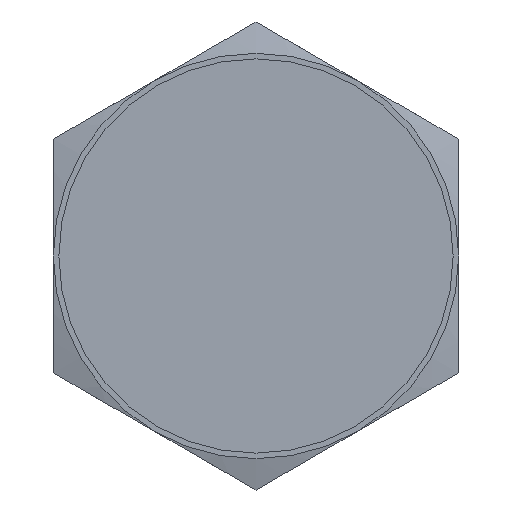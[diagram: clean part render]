
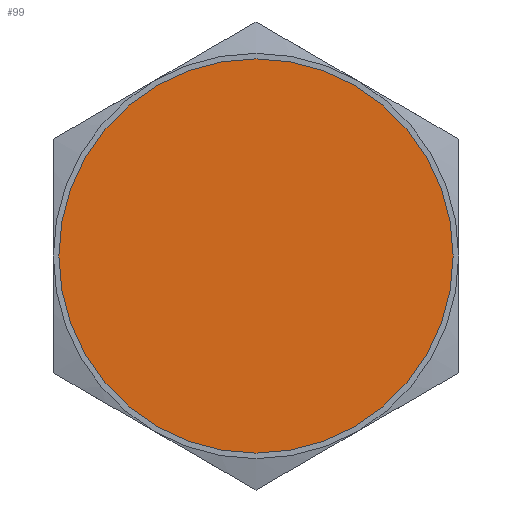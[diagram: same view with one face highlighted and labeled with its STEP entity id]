
A CAD part, front view. The second image highlights one B-rep face of the part: STEP entity #99.
In plain terms, the highlighted planar face has unit normal (0, -1, 0).
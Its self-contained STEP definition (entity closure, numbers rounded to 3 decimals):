
#99 = ADVANCED_FACE( '', ( #161 ), #162, .T. );
#161 = FACE_OUTER_BOUND( '', #240, .T. );
#162 = PLANE( '', #241 );
#240 = EDGE_LOOP( '', ( #441, #442 ) );
#241 = AXIS2_PLACEMENT_3D( '', #443, #444, #445 );
#441 = ORIENTED_EDGE( '', *, *, #557, .F. );
#442 = ORIENTED_EDGE( '', *, *, #599, .F. );
#443 = CARTESIAN_POINT( '', ( 2.432, -3.1, 0. ) );
#444 = DIRECTION( '', ( 0., -1., 0. ) );
#445 = DIRECTION( '', ( -1., 0., 0. ) );
#557 = EDGE_CURVE( '', #654, #657, #658, .T. );
#599 = EDGE_CURVE( '', #657, #654, #721, .T. );
#654 = VERTEX_POINT( '', #786 );
#657 = VERTEX_POINT( '', #790 );
#658 = CIRCLE( '', #791, 4.864 );
#721 = CIRCLE( '', #1077, 4.864 );
#786 = CARTESIAN_POINT( '', ( 4.864, -3.1, 0. ) );
#790 = CARTESIAN_POINT( '', ( -4.864, -3.1, 0. ) );
#791 = AXIS2_PLACEMENT_3D( '', #1135, #1136, #1137 );
#1077 = AXIS2_PLACEMENT_3D( '', #1175, #1176, #1177 );
#1135 = CARTESIAN_POINT( '', ( 0., -3.1, 0. ) );
#1136 = DIRECTION( '', ( 0., 1., 0. ) );
#1137 = DIRECTION( '', ( 1., 0., 0. ) );
#1175 = CARTESIAN_POINT( '', ( 0., -3.1, 0. ) );
#1176 = DIRECTION( '', ( 0., 1., 0. ) );
#1177 = DIRECTION( '', ( 1., 0., 0. ) );
